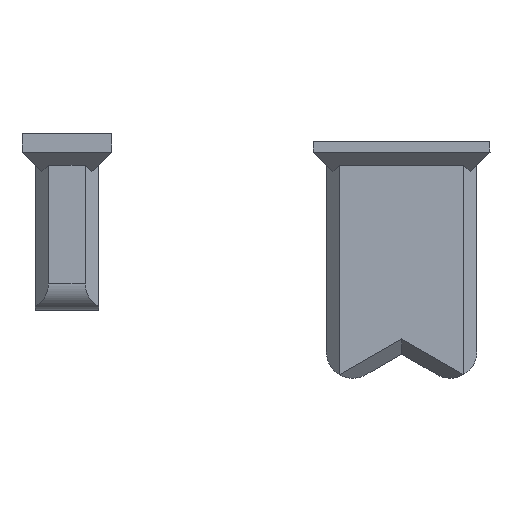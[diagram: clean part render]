
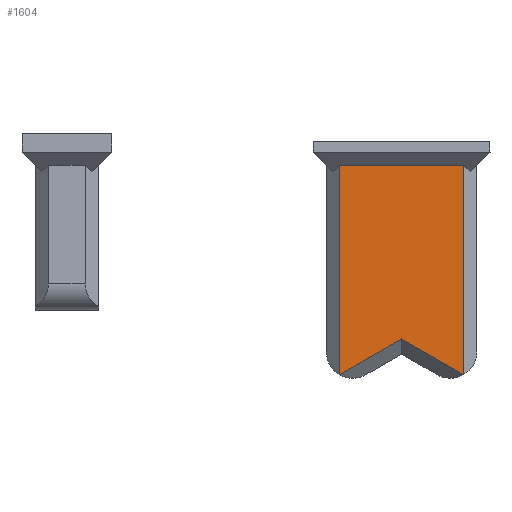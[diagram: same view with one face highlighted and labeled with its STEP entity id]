
A CAD part, front view. The second image highlights one B-rep face of the part: STEP entity #1604.
In plain terms, the highlighted planar face has unit normal (0, -1, 0).
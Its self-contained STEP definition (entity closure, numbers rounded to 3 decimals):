
#1569=AXIS2_PLACEMENT_3D('Plane Axis2P3D',#1566,#1567,#1568) ;
#1471=CARTESIAN_POINT('Vertex',(16.23,-13.8,21.5)) ;
#1487=CARTESIAN_POINT('Vertex',(11.53,-13.8,21.5)) ;
#1490=CARTESIAN_POINT('Line Origine',(13.88,-13.8,21.5)) ;
#1566=CARTESIAN_POINT('Axis2P3D Location',(0.,-13.8,0.)) ;
#1571=CARTESIAN_POINT('Line Origine',(11.53,-13.8,17.535)) ;
#1575=CARTESIAN_POINT('Vertex',(11.53,-13.8,13.569)) ;
#1578=CARTESIAN_POINT('Line Origine',(12.705,-13.8,14.248)) ;
#1582=CARTESIAN_POINT('Vertex',(13.88,-13.8,14.926)) ;
#1585=CARTESIAN_POINT('Line Origine',(15.055,-13.8,14.248)) ;
#1589=CARTESIAN_POINT('Vertex',(16.23,-13.8,13.569)) ;
#1592=CARTESIAN_POINT('Line Origine',(16.23,-13.8,17.535)) ;
#1491=DIRECTION('Vector Direction',(-1.,0.,0.)) ;
#1567=DIRECTION('Axis2P3D Direction',(0.,-1.,0.)) ;
#1568=DIRECTION('Axis2P3D XDirection',(1.,0.,0.)) ;
#1572=DIRECTION('Vector Direction',(0.,0.,1.)) ;
#1579=DIRECTION('Vector Direction',(-0.866,0.,-0.5)) ;
#1586=DIRECTION('Vector Direction',(-0.866,0.,0.5)) ;
#1593=DIRECTION('Vector Direction',(0.,0.,1.)) ;
#1492=VECTOR('Line Direction',#1491,1.) ;
#1573=VECTOR('Line Direction',#1572,1.) ;
#1580=VECTOR('Line Direction',#1579,1.) ;
#1587=VECTOR('Line Direction',#1586,1.) ;
#1594=VECTOR('Line Direction',#1593,1.) ;
#1598=ORIENTED_EDGE('',*,*,#1494,.F.) ;
#1599=ORIENTED_EDGE('',*,*,#1577,.F.) ;
#1600=ORIENTED_EDGE('',*,*,#1584,.F.) ;
#1601=ORIENTED_EDGE('',*,*,#1591,.F.) ;
#1602=ORIENTED_EDGE('',*,*,#1596,.F.) ;
#1604=ADVANCED_FACE('TAPPI',(#1603),#1570,.T.) ;
#1494=EDGE_CURVE('',#1488,#1472,#1493,.F.) ;
#1577=EDGE_CURVE('',#1576,#1488,#1574,.T.) ;
#1584=EDGE_CURVE('',#1583,#1576,#1581,.T.) ;
#1591=EDGE_CURVE('',#1590,#1583,#1588,.T.) ;
#1596=EDGE_CURVE('',#1472,#1590,#1595,.F.) ;
#1597=EDGE_LOOP('',(#1598,#1599,#1600,#1601,#1602)) ;
#1603=FACE_OUTER_BOUND('',#1597,.T.) ;
#1493=LINE('Line',#1490,#1492) ;
#1574=LINE('Line',#1571,#1573) ;
#1581=LINE('Line',#1578,#1580) ;
#1588=LINE('Line',#1585,#1587) ;
#1595=LINE('Line',#1592,#1594) ;
#1570=PLANE('',#1569) ;
#1472=VERTEX_POINT('',#1471) ;
#1488=VERTEX_POINT('',#1487) ;
#1576=VERTEX_POINT('',#1575) ;
#1583=VERTEX_POINT('',#1582) ;
#1590=VERTEX_POINT('',#1589) ;
